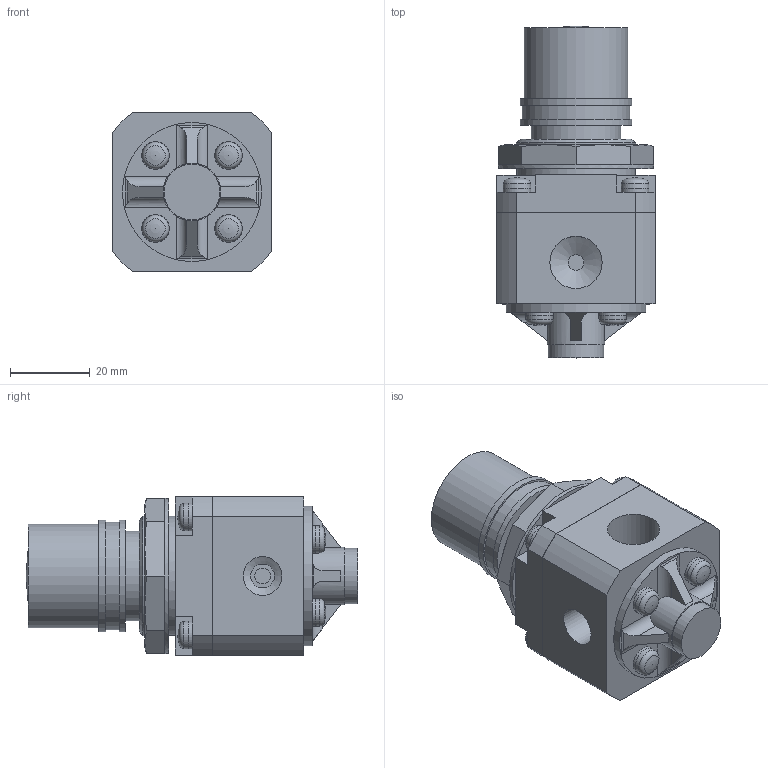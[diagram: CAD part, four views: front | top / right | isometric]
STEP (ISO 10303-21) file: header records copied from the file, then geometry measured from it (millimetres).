
FILE_DESCRIPTION(/* description */ ('STEP AP203'),/* implementation_level */ '2;1');
FILE_NAME(/* name */ 'SRH3010-01(1)',/* time_stamp */ '2026-03-25T01:30:49+01:00',/* author */ ('License CC BY-ND 4.0'),/* organization */ ('CADENAS'),/* preprocessor_version */ 'ST-DEVELOPER v20',/* originating_system */ 'PARTsolutions',/* authorisation */ ' ');
FILE_SCHEMA (('CONFIG_CONTROL_DESIGN'));
Length unit declared in the file: millimetre
Products named in the file (3): SRH3010-01(1); SRH3010-01(1)_BODY; M30x1.5_NUT
Assembly tree (2 placements, depth 2):
  SRH3010-01(1)
    SRH3010-01(1)_BODY
    M30x1.5_NUT
Bounding box: 40 x 83.5 x 40 mm (x, y, z)
Volume: 74465.3 mm3; surface area: 16566 mm2
Topology: 2 solids, 2 shells, 165 faces, 381 edges, 236 vertices
Faces by surface type: plane 84, cylinder 49, cone 15, sphere 9, torus 8
Full cylindrical faces by diameter (mm): 0.8 x1, 2.6 x1, 4 x3, 6 x2, 7 x8, 9.728 x2, 13.157 x1, 14 x1, 14.5 x1, 22.5 x1, 26 x1, 27 x1, 28 x2, 28.376 x1, 30 x1, 35 x1, 39 x1
Entity records: 4249 total; most frequent: CARTESIAN_POINT 772, DIRECTION 740, ORIENTED_EDGE 600, EDGE_CURVE 300, AXIS2_PLACEMENT_3D 296, EDGE_LOOP 244, FACE_BOUND 244, VERTEX_POINT 216
